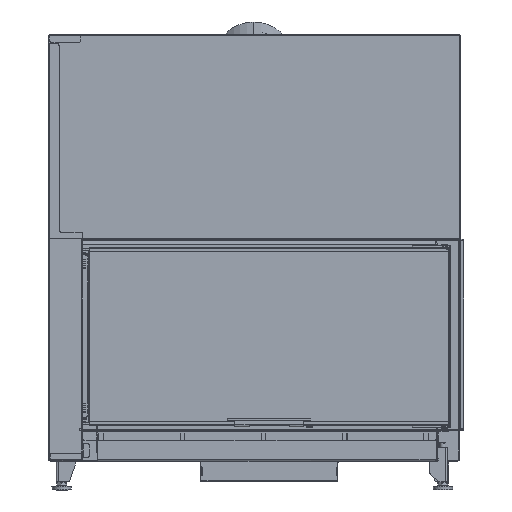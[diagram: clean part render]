
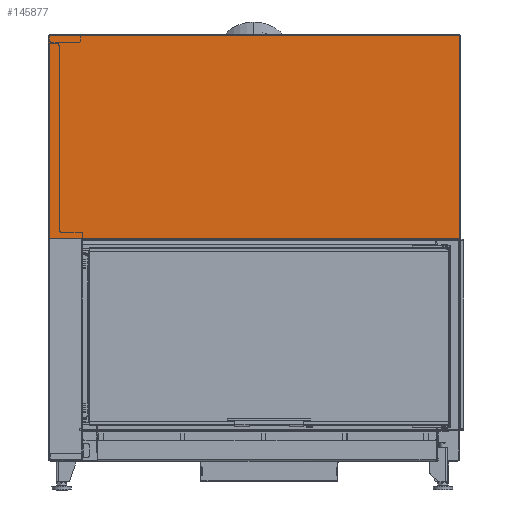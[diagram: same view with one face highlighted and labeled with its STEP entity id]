
A CAD part, front view. The second image highlights one B-rep face of the part: STEP entity #145877.
In plain terms, the highlighted planar face has unit normal (0, -1, 0).
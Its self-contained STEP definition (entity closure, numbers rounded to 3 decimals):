
#5988=PLANE('',#157302);
#12350=FACE_OUTER_BOUND('',#20389,.T.);
#20389=EDGE_LOOP('',(#113590,#113591,#113592,#113593,#113594,#113595,#113596,
#113597,#113598,#113599,#113600));
#31672=LINE('',#229183,#45287);
#32322=LINE('',#231568,#45937);
#32323=LINE('',#231570,#45938);
#32324=LINE('',#231573,#45939);
#32325=LINE('',#231575,#45940);
#32326=LINE('',#231577,#45941);
#32327=LINE('',#231579,#45942);
#32328=LINE('',#231582,#45943);
#45287=VECTOR('',#185403,10.);
#45937=VECTOR('',#187229,10.);
#45938=VECTOR('',#187230,10.);
#45939=VECTOR('',#187233,10.);
#45940=VECTOR('',#187234,10.);
#45941=VECTOR('',#187235,10.);
#45942=VECTOR('',#187236,10.);
#45943=VECTOR('',#187239,10.);
#53772=CIRCLE('',#157303,3.);
#53773=CIRCLE('',#157304,0.1);
#53774=CIRCLE('',#157305,3.);
#63110=VERTEX_POINT('',#229180);
#63111=VERTEX_POINT('',#229182);
#63731=VERTEX_POINT('',#231564);
#63732=VERTEX_POINT('',#231565);
#63733=VERTEX_POINT('',#231567);
#63734=VERTEX_POINT('',#231569);
#63735=VERTEX_POINT('',#231572);
#63736=VERTEX_POINT('',#231574);
#63737=VERTEX_POINT('',#231576);
#63738=VERTEX_POINT('',#231578);
#63739=VERTEX_POINT('',#231580);
#80197=EDGE_CURVE('',#63111,#63110,#31672,.T.);
#81148=EDGE_CURVE('',#63731,#63732,#53772,.T.);
#81149=EDGE_CURVE('',#63731,#63733,#32322,.T.);
#81150=EDGE_CURVE('',#63733,#63734,#32323,.T.);
#81151=EDGE_CURVE('',#63734,#63111,#53773,.T.);
#81152=EDGE_CURVE('',#63110,#63735,#32324,.T.);
#81153=EDGE_CURVE('',#63735,#63736,#32325,.T.);
#81154=EDGE_CURVE('',#63736,#63737,#32326,.T.);
#81155=EDGE_CURVE('',#63737,#63738,#32327,.T.);
#81156=EDGE_CURVE('',#63739,#63738,#53774,.T.);
#81157=EDGE_CURVE('',#63739,#63732,#32328,.T.);
#113590=ORIENTED_EDGE('',*,*,#81148,.F.);
#113591=ORIENTED_EDGE('',*,*,#81149,.T.);
#113592=ORIENTED_EDGE('',*,*,#81150,.T.);
#113593=ORIENTED_EDGE('',*,*,#81151,.T.);
#113594=ORIENTED_EDGE('',*,*,#80197,.T.);
#113595=ORIENTED_EDGE('',*,*,#81152,.T.);
#113596=ORIENTED_EDGE('',*,*,#81153,.T.);
#113597=ORIENTED_EDGE('',*,*,#81154,.T.);
#113598=ORIENTED_EDGE('',*,*,#81155,.T.);
#113599=ORIENTED_EDGE('',*,*,#81156,.F.);
#113600=ORIENTED_EDGE('',*,*,#81157,.T.);
#145877=ADVANCED_FACE('',(#12350),#5988,.T.);
#157302=AXIS2_PLACEMENT_3D('',#231563,#187225,#187226);
#157303=AXIS2_PLACEMENT_3D('',#231566,#187227,#187228);
#157304=AXIS2_PLACEMENT_3D('',#231571,#187231,#187232);
#157305=AXIS2_PLACEMENT_3D('',#231581,#187237,#187238);
#185403=DIRECTION('',(0.,0.,-1.));
#187225=DIRECTION('center_axis',(0.,-1.,
0.));
#187226=DIRECTION('ref_axis',(1.,0.,0.));
#187227=DIRECTION('center_axis',(0.,1.,
0.));
#187228=DIRECTION('ref_axis',(-0.707,0.,-0.707));
#187229=DIRECTION('',(1.,0.,0.));
#187230=DIRECTION('',(0.,0.,1.));
#187231=DIRECTION('center_axis',(0.,1.,
0.));
#187232=DIRECTION('ref_axis',(1.,0.,0.));
#187233=DIRECTION('',(1.,0.,0.));
#187234=DIRECTION('',(0.,0.,1.));
#187235=DIRECTION('',(-1.,0.,0.));
#187236=DIRECTION('',(-1.,0.,0.));
#187237=DIRECTION('center_axis',(0.,1.,
0.));
#187238=DIRECTION('ref_axis',(-0.707,0.,0.707));
#187239=DIRECTION('',(0.,0.,-1.));
#229180=CARTESIAN_POINT('',(87.4,-59.983,582.259));
#229182=CARTESIAN_POINT('',(87.4,-59.983,582.359));
#229183=CARTESIAN_POINT('',(87.4,-59.979,715.947));
#231563=CARTESIAN_POINT('Origin',(580.775,-59.975,849.634));
#231564=CARTESIAN_POINT('',(3.,-59.983,582.259));
#231565=CARTESIAN_POINT('',(0.,-59.983,585.259));
#231566=CARTESIAN_POINT('Origin',(3.,-59.983,585.259));
#231567=CARTESIAN_POINT('',(87.2,-59.983,582.259));
#231568=CARTESIAN_POINT('',(0.,-59.983,582.259));
#231569=CARTESIAN_POINT('',(87.2,-59.983,582.359));
#231570=CARTESIAN_POINT('',(87.2,-59.979,715.997));
#231571=CARTESIAN_POINT('Origin',(87.3,-59.983,582.359));
#231572=CARTESIAN_POINT('',(1074.65,-59.983,582.259));
#231573=CARTESIAN_POINT('',(0.,-59.983,582.259));
#231574=CARTESIAN_POINT('',(1074.65,-59.968,1114.259));
#231575=CARTESIAN_POINT('',(1074.65,-59.979,715.947));
#231576=CARTESIAN_POINT('',(84.15,-59.968,1114.259));
#231577=CARTESIAN_POINT('',(829.088,-59.968,1114.259));
#231578=CARTESIAN_POINT('',(3.,-59.968,1114.259));
#231579=CARTESIAN_POINT('',(84.15,-59.968,1114.259));
#231580=CARTESIAN_POINT('',(0.,-59.968,1111.259));
#231581=CARTESIAN_POINT('Origin',(3.,-59.968,1111.259));
#231582=CARTESIAN_POINT('',(0.,-59.968,1114.259));
